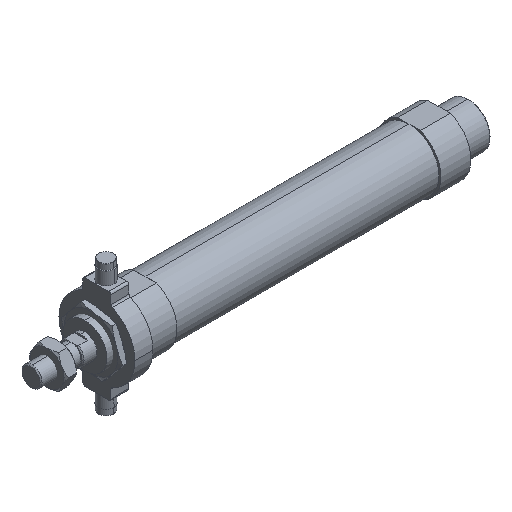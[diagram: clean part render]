
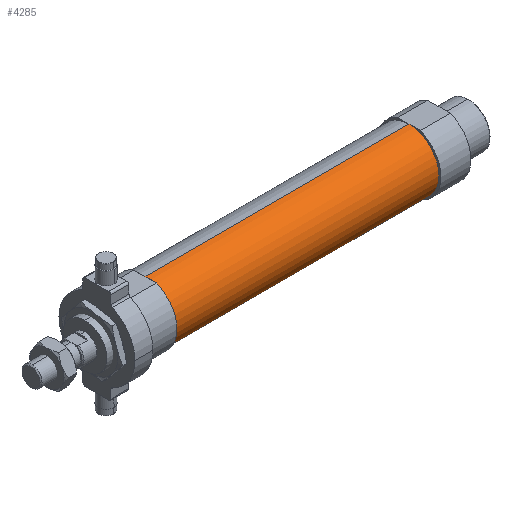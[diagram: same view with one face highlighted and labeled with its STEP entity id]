
A CAD part, isometric view. The second image highlights one B-rep face of the part: STEP entity #4285.
In plain terms, the highlighted cylindrical face has radius 15 mm (diameter 30 mm), a partial arc.
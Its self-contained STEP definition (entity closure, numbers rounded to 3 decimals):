
#136 = VECTOR ( 'NONE', #1188, 1000. ) ;
#281 = DIRECTION ( 'NONE',  ( -1., 0., 0. ) ) ;
#333 = VERTEX_POINT ( 'NONE', #3859 ) ;
#456 = CIRCLE ( 'NONE', #4096, 15. ) ;
#482 = DIRECTION ( 'NONE',  ( 0., 0., 1. ) ) ;
#607 = ORIENTED_EDGE ( 'NONE', *, *, #1748, .F. ) ;
#615 = DIRECTION ( 'NONE',  ( -1., 0., 0. ) ) ;
#701 = VECTOR ( 'NONE', #2173, 1000. ) ;
#762 = CARTESIAN_POINT ( 'NONE',  ( -6.469, 0., 15. ) ) ;
#910 = DIRECTION ( 'NONE',  ( 0., 0., 1. ) ) ;
#964 = LINE ( 'NONE', #762, #136 ) ;
#1188 = DIRECTION ( 'NONE',  ( -1., 0., 0. ) ) ;
#1244 = CIRCLE ( 'NONE', #4091, 15. ) ;
#1342 = VERTEX_POINT ( 'NONE', #3663 ) ;
#1345 = CARTESIAN_POINT ( 'NONE',  ( 57., 0., 15. ) ) ;
#1578 = ORIENTED_EDGE ( 'NONE', *, *, #3906, .T. ) ;
#1648 = CARTESIAN_POINT ( 'NONE',  ( -6.469, 0., 0. ) ) ;
#1748 = EDGE_CURVE ( 'NONE', #1342, #3458, #1244, .T. ) ;
#1799 = EDGE_LOOP ( 'NONE', ( #3583, #4233, #1578, #607 ) ) ;
#2173 = DIRECTION ( 'NONE',  ( -1., 0., 0. ) ) ;
#2771 = EDGE_CURVE ( 'NONE', #333, #1342, #3585, .T. ) ;
#2778 = CARTESIAN_POINT ( 'NONE',  ( 57., 0., 0. ) ) ;
#2861 = CARTESIAN_POINT ( 'NONE',  ( 189., 0., 0. ) ) ;
#2914 = VERTEX_POINT ( 'NONE', #3963 ) ;
#3194 = AXIS2_PLACEMENT_3D ( 'NONE', #1648, #3374, #3936 ) ;
#3374 = DIRECTION ( 'NONE',  ( -1., 0., 0. ) ) ;
#3458 = VERTEX_POINT ( 'NONE', #1345 ) ;
#3583 = ORIENTED_EDGE ( 'NONE', *, *, #2771, .F. ) ;
#3585 = LINE ( 'NONE', #4324, #701 ) ;
#3663 = CARTESIAN_POINT ( 'NONE',  ( 57., 0., -15. ) ) ;
#3798 = FACE_OUTER_BOUND ( 'NONE', #1799, .T. ) ;
#3859 = CARTESIAN_POINT ( 'NONE',  ( 189., 0., -15. ) ) ;
#3906 = EDGE_CURVE ( 'NONE', #2914, #3458, #964, .T. ) ;
#3936 = DIRECTION ( 'NONE',  ( 0., 0., 1. ) ) ;
#3963 = CARTESIAN_POINT ( 'NONE',  ( 189., 0., 15. ) ) ;
#4091 = AXIS2_PLACEMENT_3D ( 'NONE', #2778, #615, #482 ) ;
#4096 = AXIS2_PLACEMENT_3D ( 'NONE', #2861, #281, #910 ) ;
#4233 = ORIENTED_EDGE ( 'NONE', *, *, #4391, .T. ) ;
#4285 = ADVANCED_FACE ( 'NONE', ( #3798 ), #4394, .T. ) ;
#4324 = CARTESIAN_POINT ( 'NONE',  ( -6.469, 0., -15. ) ) ;
#4391 = EDGE_CURVE ( 'NONE', #333, #2914, #456, .T. ) ;
#4394 = CYLINDRICAL_SURFACE ( 'NONE', #3194, 15. ) ;
